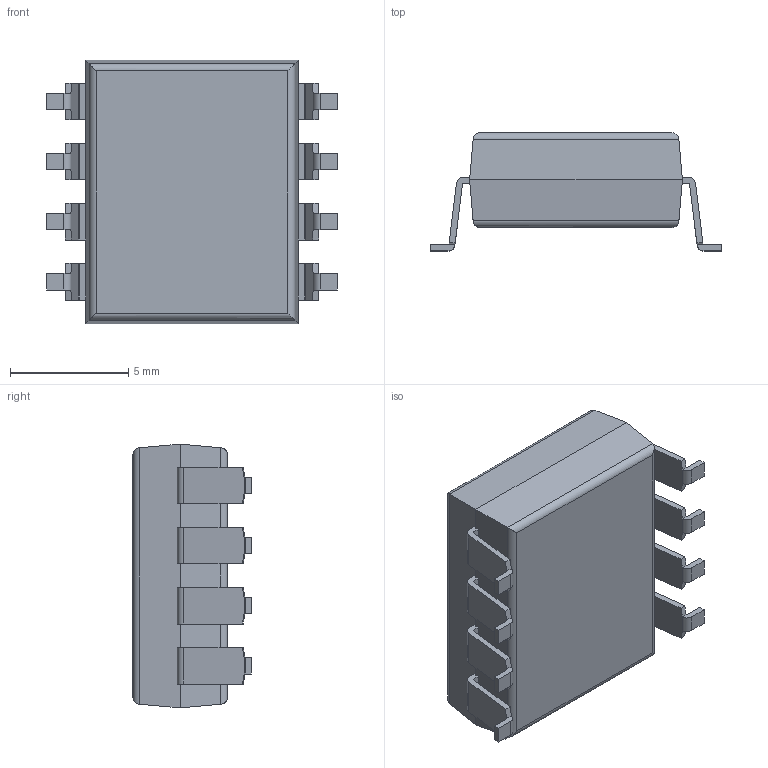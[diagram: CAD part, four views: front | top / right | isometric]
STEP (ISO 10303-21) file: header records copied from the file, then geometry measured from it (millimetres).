
FILE_DESCRIPTION (( 'STEP AP214' ), '1' );
FILE_NAME ('HCNR201-550E.STEP', '2022-08-29T20:43:30', ( '' ), ( '' ), 'SwSTEP 2.0', 'SolidWorks 2017', '' );
FILE_SCHEMA (( 'AUTOMOTIVE_DESIGN' ));
Length unit declared in the file: millimetre
Products named in the file (1): HCNR201-550E
Bounding box: 12.3 x 5 x 11.15 mm (x, y, z)
Volume: 397.4 mm3; surface area: 449.5 mm2
Topology: 10 solids, 10 shells, 177 faces, 424 edges, 268 vertices
Faces by surface type: plane 133, cylinder 44
Entity records: 5153 total; most frequent: CARTESIAN_POINT 894, ORIENTED_EDGE 848, DIRECTION 844, EDGE_CURVE 424, LINE 344, VECTOR 344, VERTEX_POINT 268, AXIS2_PLACEMENT_3D 250
